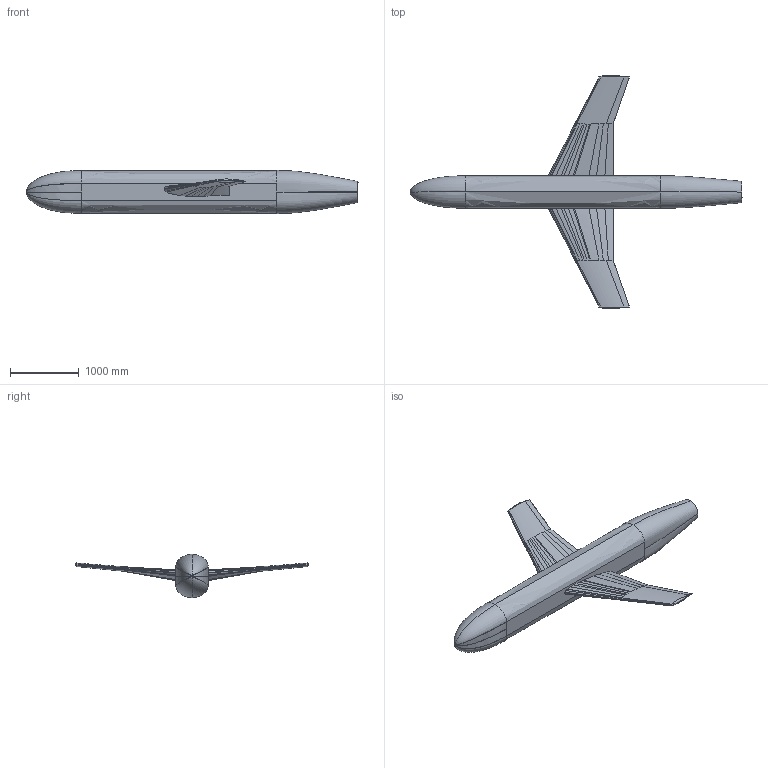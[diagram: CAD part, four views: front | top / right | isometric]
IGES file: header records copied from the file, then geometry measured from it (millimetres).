
Global section: file name: X:\prj6.0\JFM\outgoing\geometry\jfm_harrison_fuselage_8percent-2017_02_06\2018_12_scaled_to_meters_and_mm\jfm_dlr_f6_harrison_fuselage_2017_02_06_fullspan_mm.igs; native system: NX V10.0; preprocessor: SIEMENS PLM Software NX 10.0; date: 20181214.134619; units: millimetre
Bounding box: 4839.23 x 3397.16 x 629.72 mm (x, y, z)
Surface area: 12011845.8 mm2 (no closed solid volume)
Topology: 0 solids, 0 shells, 95 faces, 608 edges, 596 vertices
Faces by surface type: bspline 95
